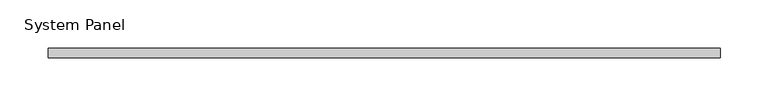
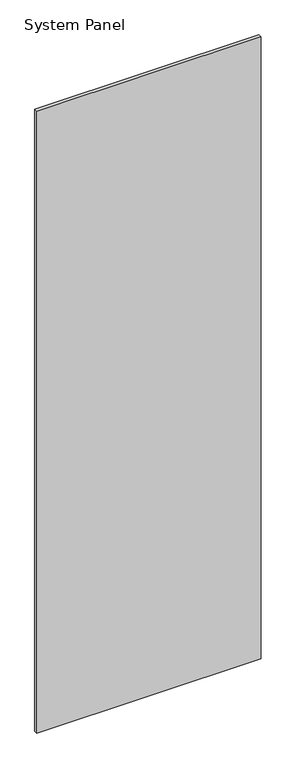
"""IFC4 building model written with IfcOpenShell, lengths in millimetres: plate geometry, System Panel : стекло_смещение_0."""

from ifc_helpers import new_model, si_unit, origin, origin_with_axes, place, context, project, spatial, polyline, outline, extrude, source, transform, mapped, element, save


def system_panel_b533e672(model_context):
    return source(origin(), model_context, "Body", "SweptSolid", [
        extrude(outline(polyline([(350.0, -5.0), (-350.0, -5.0), (-350.0, 5.0), (350.0, 5.0), (350.0, -5.0)])), origin_with_axes(), (0.0, 0.0, 1.0), 2050.0),
    ])


if __name__ == "__main__":
    model = new_model("IFC4")
    model_context = context("Model", 3, world=origin())
    ifc_project = project(units=[si_unit("LENGTHUNIT", "METRE", prefix="MILLI")], contexts=[model_context])
    site = spatial("IfcSite", under=ifc_project)
    building = spatial("IfcBuilding", under=site)
    placement = place(None, origin())
    system_panel_shape = system_panel_b533e672(model_context)
    element("IfcPlate", 1, ObjectType="System Panel : стекло_смещение_0", at=placement, inside=building, context=model_context, shape_type="MappedRepresentation", body=[
        mapped(system_panel_shape, transform((0.0, 0.0, 0.0), x_axis=(1.0, 0.0, 0.0), y_axis=(0.0, 1.0, 0.0), z_axis=(0.0, 0.0, 1.0))),
    ])
    save(model, "model.ifc")
